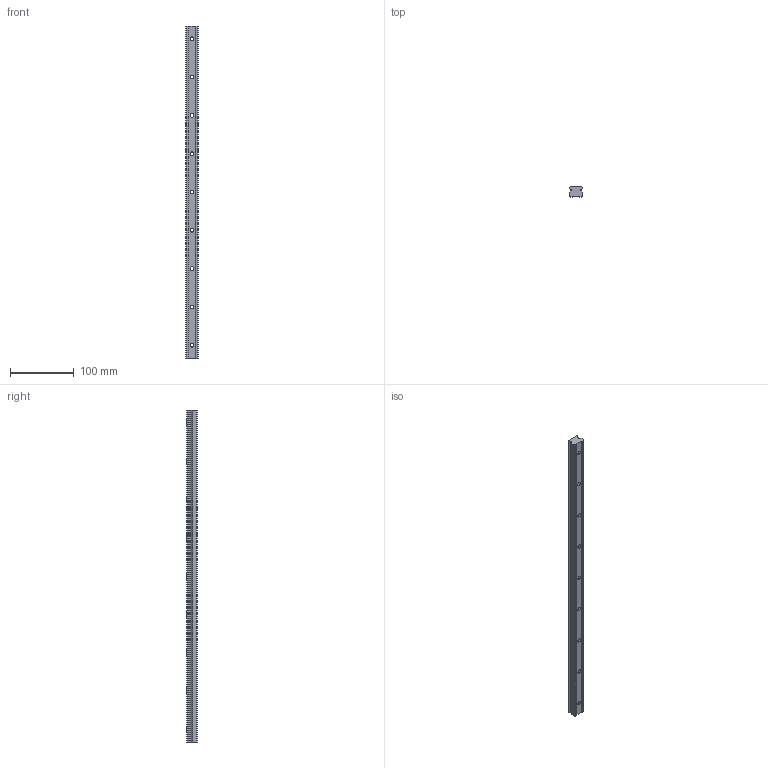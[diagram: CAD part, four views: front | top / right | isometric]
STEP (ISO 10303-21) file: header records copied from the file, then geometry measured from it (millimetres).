
FILE_DESCRIPTION (( 'STEP AP203' ), '1' );
FILE_NAME ('L1016.BL20-0520.step', '2019-06-12T11:46:36', ( '' ), ( '' ), 'SwSTEP 2.0', 'SolidWorks 2017', '' );
FILE_SCHEMA (( 'CONFIG_CONTROL_DESIGN' ));
Length unit declared in the file: millimetre
Products named in the file (1): L1016.BL20-0520
Bounding box: 20 x 16.3 x 520 mm (x, y, z)
Volume: 144327.4 mm3; surface area: 42395.6 mm2
Topology: 1 solids, 1 shells, 71 faces, 180 edges, 120 vertices
Faces by surface type: cylinder 40, plane 31
Entity records: 2287 total; most frequent: DIRECTION 404, CARTESIAN_POINT 372, ORIENTED_EDGE 360, EDGE_CURVE 180, AXIS2_PLACEMENT_3D 152, VERTEX_POINT 120, VECTOR 100, LINE 100
